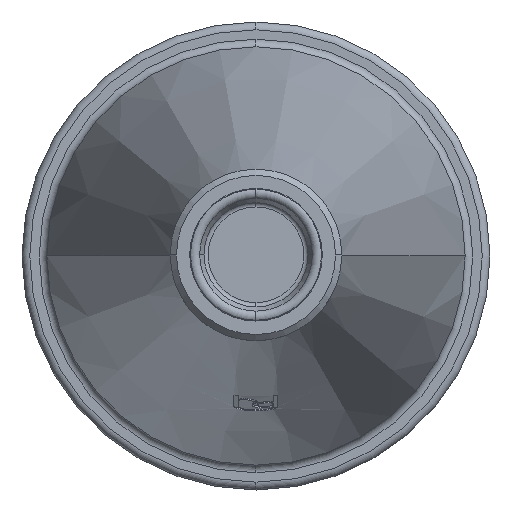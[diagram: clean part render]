
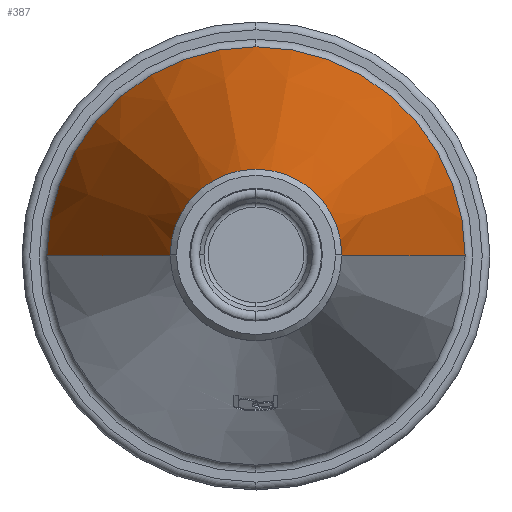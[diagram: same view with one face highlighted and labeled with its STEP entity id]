
A CAD part, top view. The second image highlights one B-rep face of the part: STEP entity #387.
In plain terms, the highlighted conical face has half-angle 13.35 degrees and reference radius 94.544 mm.
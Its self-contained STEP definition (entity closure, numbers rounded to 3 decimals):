
#387=ADVANCED_FACE('',(#771),#772,.T.);
#771=FACE_OUTER_BOUND('',#1185,.T.);
#772=CONICAL_SURFACE('',#1186,94.544,0.233);
#1185=EDGE_LOOP('',(#2096,#2097,#2098,#2099,#2100));
#1186=AXIS2_PLACEMENT_3D('',#2101,#2102,#2103);
#2096=ORIENTED_EDGE('',*,*,#2578,.T.);
#2097=ORIENTED_EDGE('',*,*,#2694,.F.);
#2098=ORIENTED_EDGE('',*,*,#2559,.F.);
#2099=ORIENTED_EDGE('',*,*,#2580,.T.);
#2100=ORIENTED_EDGE('',*,*,#2695,.T.);
#2101=CARTESIAN_POINT('',(486.769,506.98,-51.077));
#2102=DIRECTION('',(0.,0.,-1.0));
#2103=DIRECTION('',(1.0,0.,0.));
#2559=EDGE_CURVE('',#3062,#3064,#3065,.T.);
#2578=EDGE_CURVE('',#3097,#3098,#3099,.T.);
#2580=EDGE_CURVE('',#3062,#3100,#3102,.T.);
#2694=EDGE_CURVE('',#3064,#3098,#3275,.T.);
#2695=EDGE_CURVE('',#3100,#3097,#3276,.T.);
#3062=VERTEX_POINT('',#3816);
#3064=VERTEX_POINT('',#3818);
#3065=CIRCLE('',#3819,134.087);
#3097=VERTEX_POINT('',#3937);
#3098=VERTEX_POINT('',#3938);
#3099=LINE('',#3939,#3940);
#3100=VERTEX_POINT('',#3941);
#3102=LINE('',#3943,#3944);
#3275=CIRCLE('',#4540,134.087);
#3276=CIRCLE('',#4541,55.0);
#3816=CARTESIAN_POINT('',(352.682,506.98,-217.713));
#3818=CARTESIAN_POINT('',(486.769,641.067,-217.713));
#3819=AXIS2_PLACEMENT_3D('',#4954,#4955,#4956);
#3937=CARTESIAN_POINT('',(541.769,506.98,115.558));
#3938=CARTESIAN_POINT('',(620.857,506.98,-217.713));
#3939=CARTESIAN_POINT('',(581.313,506.98,-51.077));
#3940=VECTOR('',#4978,1.0);
#3941=CARTESIAN_POINT('',(431.769,506.98,115.558));
#3943=CARTESIAN_POINT('',(392.226,506.98,-51.077));
#3944=VECTOR('',#4982,1.0);
#4540=AXIS2_PLACEMENT_3D('',#5090,#5091,#5092);
#4541=AXIS2_PLACEMENT_3D('',#5093,#5094,#5095);
#4954=CARTESIAN_POINT('',(486.769,506.98,-217.713));
#4955=DIRECTION('',(0.,0.,-1.0));
#4956=DIRECTION('',(1.0,0.,0.));
#4978=DIRECTION('',(0.231,0.,-0.973));
#4982=DIRECTION('',(0.231,0.,0.973));
#5090=CARTESIAN_POINT('',(486.769,506.98,-217.713));
#5091=DIRECTION('',(0.,0.,-1.0));
#5092=DIRECTION('',(1.0,0.,0.));
#5093=CARTESIAN_POINT('',(486.769,506.98,115.558));
#5094=DIRECTION('',(0.,0.,-1.0));
#5095=DIRECTION('',(1.0,0.,0.));
